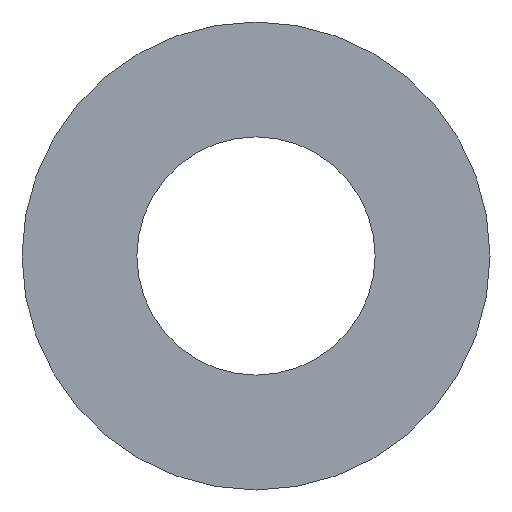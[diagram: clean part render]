
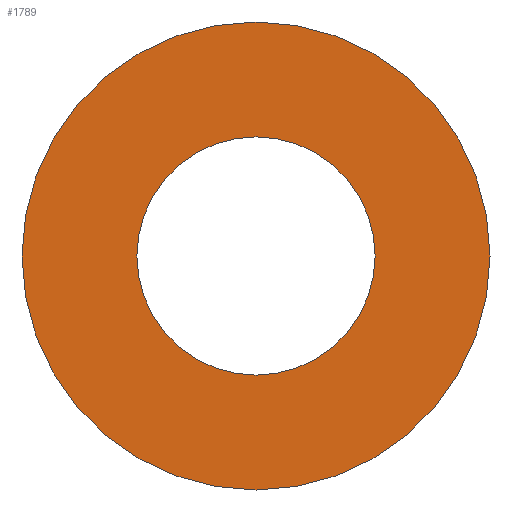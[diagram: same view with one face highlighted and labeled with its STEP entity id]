
A CAD part, front view. The second image highlights one B-rep face of the part: STEP entity #1789.
In plain terms, the highlighted planar face has unit normal (0, -1, 0).
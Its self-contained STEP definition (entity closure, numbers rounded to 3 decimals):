
#250 = VERTEX_POINT ( 'NONE', #2405 ) ;
#256 = CARTESIAN_POINT ( 'NONE',  ( 0., -15.5, 0. ) ) ;
#349 = DIRECTION ( 'NONE',  ( 0., 0., -1. ) ) ;
#377 = DIRECTION ( 'NONE',  ( 0., 0., -1. ) ) ;
#430 = EDGE_LOOP ( 'NONE', ( #614, #1419 ) ) ;
#479 = CARTESIAN_POINT ( 'NONE',  ( 0., -15.5, -14. ) ) ;
#495 = VERTEX_POINT ( 'NONE', #958 ) ;
#524 = CIRCLE ( 'NONE', #1417, 27.5 ) ;
#614 = ORIENTED_EDGE ( 'NONE', *, *, #2251, .F. ) ;
#615 = EDGE_CURVE ( 'NONE', #250, #2680, #1774, .T. ) ;
#722 = AXIS2_PLACEMENT_3D ( 'NONE', #1433, #2563, #2104 ) ;
#777 = PLANE ( 'NONE',  #2241 ) ;
#794 = DIRECTION ( 'NONE',  ( 0., 0., 1. ) ) ;
#848 = ORIENTED_EDGE ( 'NONE', *, *, #2548, .T. ) ;
#879 = ORIENTED_EDGE ( 'NONE', *, *, #2395, .T. ) ;
#958 = CARTESIAN_POINT ( 'NONE',  ( 0., -15.5, 27.5 ) ) ;
#1152 = DIRECTION ( 'NONE',  ( 0., -1., 0. ) ) ;
#1345 = EDGE_LOOP ( 'NONE', ( #879, #848 ) ) ;
#1417 = AXIS2_PLACEMENT_3D ( 'NONE', #256, #1152, #1822 ) ;
#1419 = ORIENTED_EDGE ( 'NONE', *, *, #615, .F. ) ;
#1433 = CARTESIAN_POINT ( 'NONE',  ( 0., -15.5, 0. ) ) ;
#1721 = CIRCLE ( 'NONE', #2279, 27.5 ) ;
#1774 = CIRCLE ( 'NONE', #2134, 14. ) ;
#1789 = ADVANCED_FACE ( 'NONE', ( #2872, #1842 ), #777, .F. ) ;
#1820 = VERTEX_POINT ( 'NONE', #2351 ) ;
#1822 = DIRECTION ( 'NONE',  ( 0., 0., -1. ) ) ;
#1842 = FACE_OUTER_BOUND ( 'NONE', #1345, .T. ) ;
#1912 = DIRECTION ( 'NONE',  ( 0., 1., 0. ) ) ;
#2104 = DIRECTION ( 'NONE',  ( 0., 0., -1. ) ) ;
#2134 = AXIS2_PLACEMENT_3D ( 'NONE', #2808, #2800, #349 ) ;
#2142 = DIRECTION ( 'NONE',  ( 0., -1., 0. ) ) ;
#2200 = CIRCLE ( 'NONE', #722, 14. ) ;
#2241 = AXIS2_PLACEMENT_3D ( 'NONE', #2814, #1912, #794 ) ;
#2251 = EDGE_CURVE ( 'NONE', #2680, #250, #2200, .T. ) ;
#2279 = AXIS2_PLACEMENT_3D ( 'NONE', #2588, #2142, #377 ) ;
#2351 = CARTESIAN_POINT ( 'NONE',  ( 0., -15.5, -27.5 ) ) ;
#2395 = EDGE_CURVE ( 'NONE', #1820, #495, #1721, .T. ) ;
#2405 = CARTESIAN_POINT ( 'NONE',  ( 0., -15.5, 14. ) ) ;
#2548 = EDGE_CURVE ( 'NONE', #495, #1820, #524, .T. ) ;
#2563 = DIRECTION ( 'NONE',  ( 0., -1., 0. ) ) ;
#2588 = CARTESIAN_POINT ( 'NONE',  ( 0., -15.5, 0. ) ) ;
#2680 = VERTEX_POINT ( 'NONE', #479 ) ;
#2800 = DIRECTION ( 'NONE',  ( 0., -1., 0. ) ) ;
#2808 = CARTESIAN_POINT ( 'NONE',  ( 0., -15.5, 0. ) ) ;
#2814 = CARTESIAN_POINT ( 'NONE',  ( 0., -15.5, 14. ) ) ;
#2872 = FACE_BOUND ( 'NONE', #430, .T. ) ;
